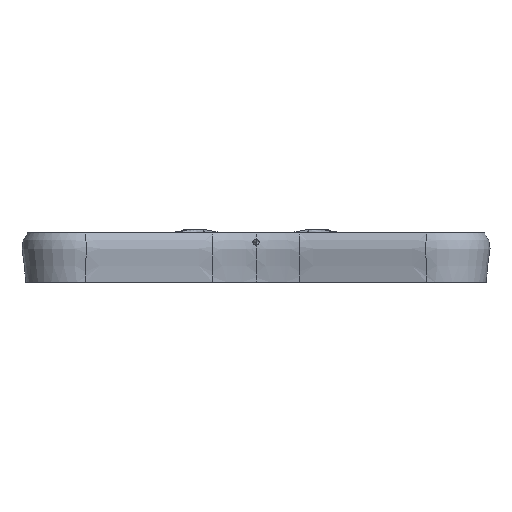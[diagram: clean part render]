
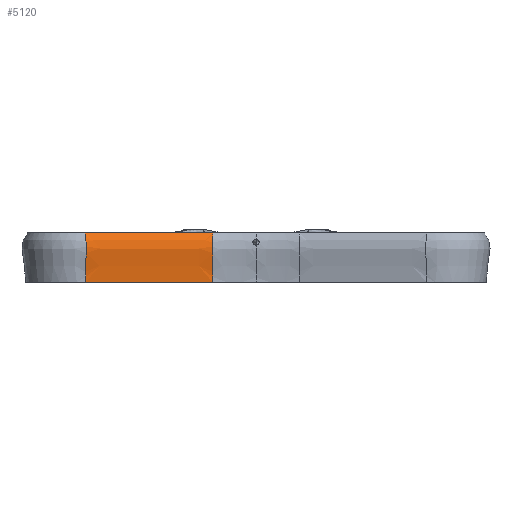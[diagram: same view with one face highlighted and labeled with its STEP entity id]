
A CAD part, left-side view. The second image highlights one B-rep face of the part: STEP entity #5120.
In plain terms, the highlighted free-form (B-spline) face has degree [9, 3] with [10, 4] control points.
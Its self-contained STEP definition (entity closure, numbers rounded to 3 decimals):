
#109 = VERTEX_POINT('',#110);
#110 = CARTESIAN_POINT('',(-68.04,14.079,0.));
#117 = EDGE_CURVE('',#109,#118,#120,.T.);
#118 = VERTEX_POINT('',#119);
#119 = CARTESIAN_POINT('',(-74.58,55.374,0.));
#120 = LINE('',#121,#122);
#121 = CARTESIAN_POINT('',(-68.04,14.079,0.));
#122 = VECTOR('',#123,1.);
#123 = DIRECTION('',(-0.156,0.988,0.));
#5020 = EDGE_CURVE('',#109,#5021,#5023,.T.);
#5021 = VERTEX_POINT('',#5022);
#5022 = CARTESIAN_POINT('',(-67.432,14.079,16.));
#5023 = B_SPLINE_CURVE_WITH_KNOTS('',3,(#5024,#5025,#5026,#5027),
  .UNSPECIFIED.,.F.,.F.,(4,4),(0.,1.),.PIECEWISE_BEZIER_KNOTS.);
#5024 = CARTESIAN_POINT('',(-68.04,14.079,0.));
#5025 = CARTESIAN_POINT('',(-67.471,14.079,
    4.847));
#5026 = CARTESIAN_POINT('',(-71.592,14.079,
    11.452));
#5027 = CARTESIAN_POINT('',(-67.432,14.079,16.));
#5120 = ADVANCED_FACE('',(#5121),#5140,.F.);
#5121 = FACE_BOUND('',#5122,.F.);
#5122 = EDGE_LOOP('',(#5123,#5124,#5133,#5139));
#5123 = ORIENTED_EDGE('',*,*,#117,.T.);
#5124 = ORIENTED_EDGE('',*,*,#5125,.T.);
#5125 = EDGE_CURVE('',#118,#5126,#5128,.T.);
#5126 = VERTEX_POINT('',#5127);
#5127 = CARTESIAN_POINT('',(-73.988,55.468,16.));
#5128 = B_SPLINE_CURVE_WITH_KNOTS('',3,(#5129,#5130,#5131,#5132),
  .UNSPECIFIED.,.F.,.F.,(4,4),(0.,1.),.PIECEWISE_BEZIER_KNOTS.);
#5129 = CARTESIAN_POINT('',(-74.58,55.374,0.));
#5130 = CARTESIAN_POINT('',(-74.026,55.462,
    4.847));
#5131 = CARTESIAN_POINT('',(-78.045,54.825,
    11.452));
#5132 = CARTESIAN_POINT('',(-73.988,55.468,16.));
#5133 = ORIENTED_EDGE('',*,*,#5134,.F.);
#5134 = EDGE_CURVE('',#5021,#5126,#5135,.T.);
#5135 = LINE('',#5136,#5137);
#5136 = CARTESIAN_POINT('',(-67.432,14.079,16.));
#5137 = VECTOR('',#5138,1.);
#5138 = DIRECTION('',(-0.156,0.988,0.));
#5139 = ORIENTED_EDGE('',*,*,#5020,.F.);
#5140 = B_SPLINE_SURFACE_WITH_KNOTS('',9,3,(
    (#5141,#5142,#5143,#5144)
    ,(#5145,#5146,#5147,#5148)
    ,(#5149,#5150,#5151,#5152)
    ,(#5153,#5154,#5155,#5156)
    ,(#5157,#5158,#5159,#5160)
    ,(#5161,#5162,#5163,#5164)
    ,(#5165,#5166,#5167,#5168)
    ,(#5169,#5170,#5171,#5172)
    ,(#5173,#5174,#5175,#5176)
    ,(#5177,#5178,#5179,#5180
  )),.UNSPECIFIED.,.F.,.F.,.F.,(10,10),(4,4),(0.,1.),(0.,1.),
  .PIECEWISE_BEZIER_KNOTS.);
#5141 = CARTESIAN_POINT('',(-68.04,14.079,0.));
#5142 = CARTESIAN_POINT('',(-67.471,14.079,
    4.847));
#5143 = CARTESIAN_POINT('',(-71.592,14.079,
    11.452));
#5144 = CARTESIAN_POINT('',(-67.432,14.079,16.));
#5145 = CARTESIAN_POINT('',(-68.767,18.667,0.));
#5146 = CARTESIAN_POINT('',(-68.199,18.677,
    4.847));
#5147 = CARTESIAN_POINT('',(-72.309,18.606,
    11.452));
#5148 = CARTESIAN_POINT('',(-68.161,18.678,16.));
#5149 = CARTESIAN_POINT('',(-69.493,23.256,0.));
#5150 = CARTESIAN_POINT('',(-68.928,23.275,
    4.847));
#5151 = CARTESIAN_POINT('',(-73.026,23.134,
    11.452));
#5152 = CARTESIAN_POINT('',(-68.889,23.277,16.));
#5153 = CARTESIAN_POINT('',(-70.22,27.844,0.));
#5154 = CARTESIAN_POINT('',(-69.656,27.873,
    4.847));
#5155 = CARTESIAN_POINT('',(-73.743,27.661,
    11.452));
#5156 = CARTESIAN_POINT('',(-69.618,27.875,16.));
#5157 = CARTESIAN_POINT('',(-70.947,32.432,0.));
#5158 = CARTESIAN_POINT('',(-70.384,32.471,
    4.847));
#5159 = CARTESIAN_POINT('',(-74.46,32.188,
    11.452));
#5160 = CARTESIAN_POINT('',(-70.346,32.474,16.));
#5161 = CARTESIAN_POINT('',(-71.673,37.021,0.));
#5162 = CARTESIAN_POINT('',(-71.113,37.069,
    4.847));
#5163 = CARTESIAN_POINT('',(-75.177,36.716,
    11.452));
#5164 = CARTESIAN_POINT('',(-71.074,37.073,16.));
#5165 = CARTESIAN_POINT('',(-72.4,41.609,0.));
#5166 = CARTESIAN_POINT('',(-71.841,41.668,
    4.847));
#5167 = CARTESIAN_POINT('',(-75.894,41.243,
    11.452));
#5168 = CARTESIAN_POINT('',(-71.803,41.672,16.));
#5169 = CARTESIAN_POINT('',(-73.127,46.197,0.));
#5170 = CARTESIAN_POINT('',(-72.569,46.266,
    4.847));
#5171 = CARTESIAN_POINT('',(-76.611,45.77,11.452
    ));
#5172 = CARTESIAN_POINT('',(-72.531,46.27,16.));
#5173 = CARTESIAN_POINT('',(-73.854,50.786,0.));
#5174 = CARTESIAN_POINT('',(-73.297,50.864,
    4.847));
#5175 = CARTESIAN_POINT('',(-77.328,50.298,
    11.452));
#5176 = CARTESIAN_POINT('',(-73.259,50.869,16.));
#5177 = CARTESIAN_POINT('',(-74.58,55.374,0.));
#5178 = CARTESIAN_POINT('',(-74.026,55.462,
    4.847));
#5179 = CARTESIAN_POINT('',(-78.045,54.825,
    11.452));
#5180 = CARTESIAN_POINT('',(-73.988,55.468,16.));
